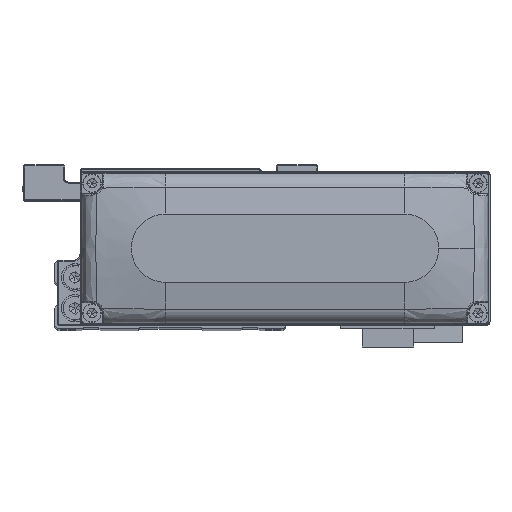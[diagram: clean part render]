
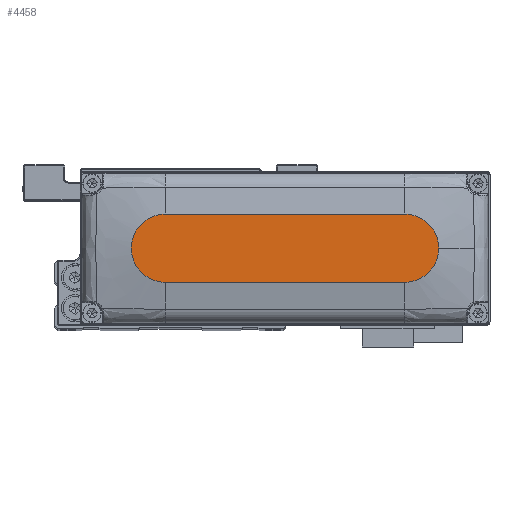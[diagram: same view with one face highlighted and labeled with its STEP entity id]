
A CAD part, top view. The second image highlights one B-rep face of the part: STEP entity #4458.
In plain terms, the highlighted planar face has unit normal (0, 0, 1).
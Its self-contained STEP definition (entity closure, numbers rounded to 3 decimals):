
#98 = CARTESIAN_POINT ( 'NONE',  ( -35., -10., 28. ) ) ;
#2121 = DIRECTION ( 'NONE',  ( 0., 0., 1. ) ) ;
#3119 = DIRECTION ( 'NONE',  ( 1., 0., 0. ) ) ;
#3430 = DIRECTION ( 'NONE',  ( 0., 0., 1. ) ) ;
#4458 = ADVANCED_FACE ( 'NONE', ( #23768 ), #35549, .T. ) ;
#4996 = CARTESIAN_POINT ( 'NONE',  ( -35., 10., 28. ) ) ;
#6095 = CARTESIAN_POINT ( 'NONE',  ( 45., 0., 28. ) ) ;
#6578 = CIRCLE ( 'NONE', #28155, 10. ) ;
#7813 = EDGE_CURVE ( 'NONE', #27075, #18766, #13944, .T. ) ;
#8086 = CARTESIAN_POINT ( 'NONE',  ( 35., -10., 28. ) ) ;
#9113 = CARTESIAN_POINT ( 'NONE',  ( 0., 0., 28. ) ) ;
#9824 = LINE ( 'NONE', #21586, #11317 ) ;
#10137 = VERTEX_POINT ( 'NONE', #33420 ) ;
#11317 = VECTOR ( 'NONE', #33361, 1000. ) ;
#11855 = DIRECTION ( 'NONE',  ( 1., 0., 0. ) ) ;
#13889 = DIRECTION ( 'NONE',  ( 1., 0., 0. ) ) ;
#13944 = CIRCLE ( 'NONE', #35546, 10. ) ;
#14470 = EDGE_CURVE ( 'NONE', #10137, #22408, #9824, .T. ) ;
#14739 = ORIENTED_EDGE ( 'NONE', *, *, #37770, .T. ) ;
#15201 = DIRECTION ( 'NONE',  ( 1., 0., 0. ) ) ;
#15656 = AXIS2_PLACEMENT_3D ( 'NONE', #28573, #2121, #13889 ) ;
#17792 = CARTESIAN_POINT ( 'NONE',  ( -35., 0., 28. ) ) ;
#18766 = VERTEX_POINT ( 'NONE', #6095 ) ;
#20016 = ORIENTED_EDGE ( 'NONE', *, *, #7813, .T. ) ;
#20539 = CARTESIAN_POINT ( 'NONE',  ( -35., -10., 28. ) ) ;
#20866 = DIRECTION ( 'NONE',  ( 0., 0., 1. ) ) ;
#21586 = CARTESIAN_POINT ( 'NONE',  ( -35., 10., 28. ) ) ;
#22408 = VERTEX_POINT ( 'NONE', #4996 ) ;
#23768 = FACE_OUTER_BOUND ( 'NONE', #25524, .T. ) ;
#25524 = EDGE_LOOP ( 'NONE', ( #26852, #14739, #37249, #20016, #32773 ) ) ;
#26526 = LINE ( 'NONE', #98, #29981 ) ;
#26852 = ORIENTED_EDGE ( 'NONE', *, *, #14470, .T. ) ;
#27075 = VERTEX_POINT ( 'NONE', #8086 ) ;
#28155 = AXIS2_PLACEMENT_3D ( 'NONE', #17792, #29574, #3119 ) ;
#28573 = CARTESIAN_POINT ( 'NONE',  ( 35., 0., 28. ) ) ;
#28748 = AXIS2_PLACEMENT_3D ( 'NONE', #9113, #20866, #32644 ) ;
#29574 = DIRECTION ( 'NONE',  ( 0., 0., 1. ) ) ;
#29882 = CARTESIAN_POINT ( 'NONE',  ( 35., 0., 28. ) ) ;
#29981 = VECTOR ( 'NONE', #11855, 1000. ) ;
#32304 = CIRCLE ( 'NONE', #15656, 10. ) ;
#32644 = DIRECTION ( 'NONE',  ( 1., 0., 0. ) ) ;
#32773 = ORIENTED_EDGE ( 'NONE', *, *, #35341, .T. ) ;
#33361 = DIRECTION ( 'NONE',  ( -1., 0., 0. ) ) ;
#33420 = CARTESIAN_POINT ( 'NONE',  ( 35., 10., 28. ) ) ;
#34619 = VERTEX_POINT ( 'NONE', #20539 ) ;
#35341 = EDGE_CURVE ( 'NONE', #18766, #10137, #32304, .T. ) ;
#35546 = AXIS2_PLACEMENT_3D ( 'NONE', #29882, #3430, #15201 ) ;
#35549 = PLANE ( 'NONE',  #28748 ) ;
#37249 = ORIENTED_EDGE ( 'NONE', *, *, #37337, .T. ) ;
#37337 = EDGE_CURVE ( 'NONE', #34619, #27075, #26526, .T. ) ;
#37770 = EDGE_CURVE ( 'NONE', #22408, #34619, #6578, .T. ) ;
